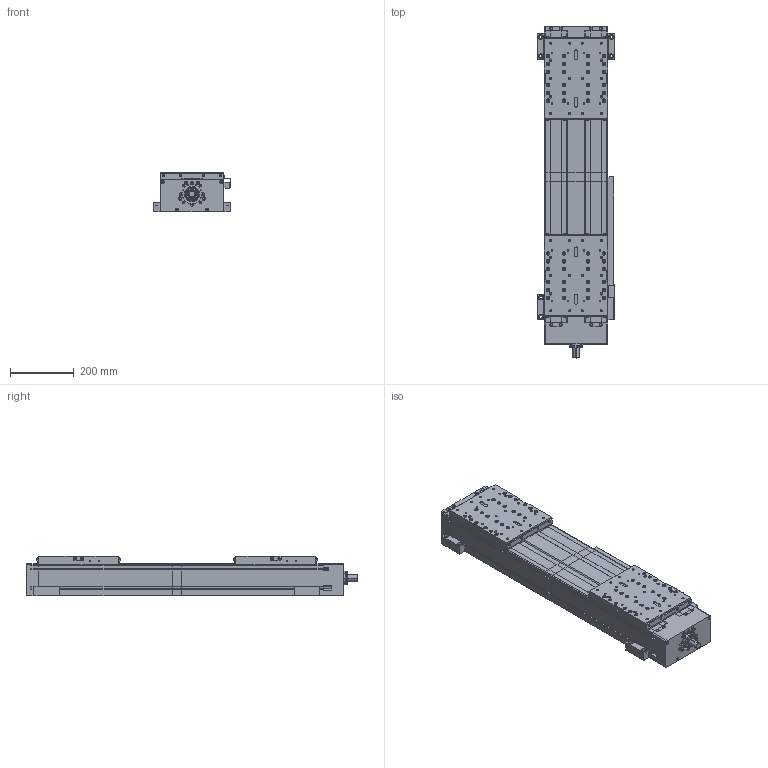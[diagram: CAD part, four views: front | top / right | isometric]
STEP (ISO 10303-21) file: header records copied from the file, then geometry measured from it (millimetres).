
FILE_DESCRIPTION(('Creo Elements/Direct Modeling STEP Export'),'2;1');
FILE_NAME('D200-SSS-RL-250-EN.stp','2025-01-13T11:45:05',(''),(''),'Creo Elements/Direct Modeling STEP processor for AP214 (Solid Model)','Creo Elements/Direct Modeling 20.1D 10-Oct-2020 (C) Parametric Technology GmbH','');
FILE_SCHEMA(('AUTOMOTIVE_DESIGN { 1 0 10303 214 1 1 1 1 }'));
Length unit declared in the file: millimetre
Products named in the file (27): D200-Grundkoerper-E30; D200-Grundkoerper-3; D200-Grundkoerper-2; Endschalter_Profil_EN1-1110; Endschalter-induktiv-ES10_10403; Endschalter-induktiv-EO10_10401; Induktive_Endschalter_EO-ES_mit_EN-Profil.1.1; Schaltfahne_10407; Linsenschraube_M4x8_EN_ISO_7380_1_10.9_vz_10243.01; Schaltfahne_10407_kpl; Ind._Endschalter_EN-Profil_Schaltfahne.1; D200-Grundkoerper-1; Schlittenplatte_L250mm; Schraube_M_4x10_ISO_7380_va_11444.01; Abstreiferbuerste-Blau_16181; Abstreifer_kpl; Schlitten-1_kpl; NS6_10561.02; Nutensteinpaar; Nutensteine; 10554_Befestigungsleiste; 10554__Befestigungsleiste; Befestigungsleistenpaar; Befestigungsleistenpaar.1; Befestigungsleisten; Schlitten-2_kpl; D200-SSS-R-L-SP250-EN-Leiste-Seite-C
Assembly tree (38 placements, depth 4):
  D200-SSS-R-L-SP250-EN-Leiste-Seite-C
    Schlitten-2_kpl
      Abstreifer_kpl  x2
        Abstreiferbuerste-Blau_16181
        Schraube_M_4x10_ISO_7380_va_11444.01
      Schlittenplatte_L250mm
    Befestigungsleisten
      Befestigungsleistenpaar.1
        10554__Befestigungsleiste
        10554_Befestigungsleiste
      Befestigungsleistenpaar
        10554__Befestigungsleiste
        10554_Befestigungsleiste
    Nutensteine
      Nutensteinpaar
        NS6_10561.02  x2
    Schlitten-1_kpl
      Abstreifer_kpl  x2
        Abstreiferbuerste-Blau_16181
        Schraube_M_4x10_ISO_7380_va_11444.01
      Schlittenplatte_L250mm
    D200-Grundkoerper-1
    Ind._Endschalter_EN-Profil_Schaltfahne.1
      Schaltfahne_10407_kpl
        Linsenschraube_M4x8_EN_ISO_7380_1_10.9_vz_10243.01  x2
        Schaltfahne_10407
      Induktive_Endschalter_EO-ES_mit_EN-Profil.1.1
        Endschalter-induktiv-EO10_10401  x2
        Endschalter-induktiv-ES10_10403
        Endschalter_Profil_EN1-1110
    D200-Grundkoerper-2
    D200-Grundkoerper-3
    D200-Grundkoerper-E30
Bounding box: 244 x 1044 x 125 mm (x, y, z)
Volume: 21840990.5 mm3; surface area: 1410002 mm2
Topology: 39 solids, 57 shells, 3655 faces, 9108 edges, 5840 vertices
Faces by surface type: plane 2241, cylinder 918, cone 380, torus 56, sphere 52, bspline 8
Entity records: 76451 total; most frequent: CARTESIAN_POINT 16173, ORIENTED_EDGE 12552, DIRECTION 11203, EDGE_CURVE 6276, VECTOR 4801, LINE 4801, VERTEX_POINT 4128, AXIS2_PLACEMENT_3D 3201
